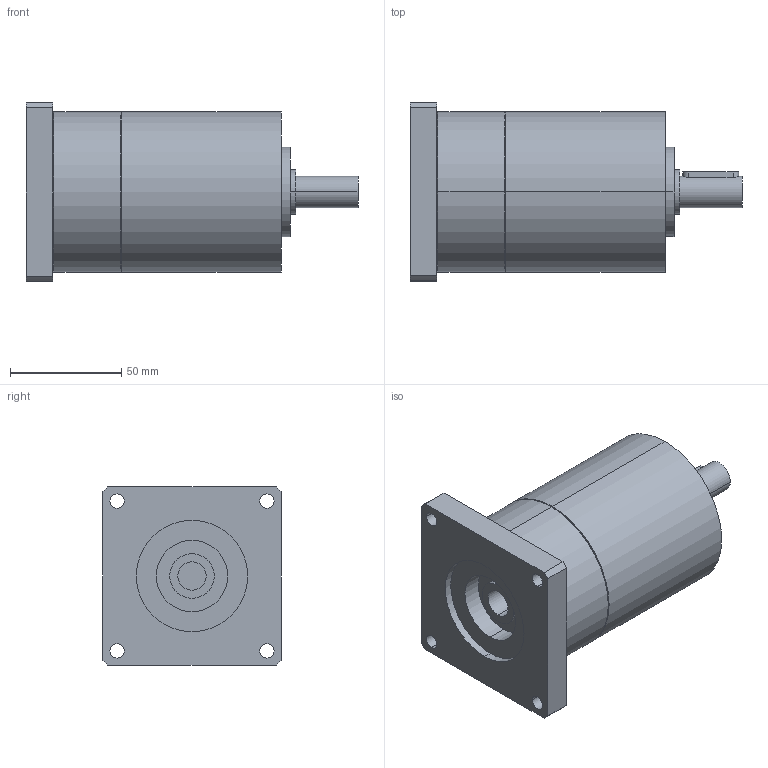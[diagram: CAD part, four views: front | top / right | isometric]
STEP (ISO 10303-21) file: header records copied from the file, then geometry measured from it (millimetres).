
FILE_DESCRIPTION(('CoCreate Modeling STEP Export'),'2;1');
FILE_NAME('GPT75_ig-9-12-16-20-25-28-35-40-50-70-100_14_B14T_12.7_P27.stp','2014-08-27T13:15:48',(''),(''),'CoCreate Modeling STEP processor for AP214 (Solid Model)','CoCreate Modeling 16.00C 25-Feb-2009 (C) Parametric Technology GmbH','');
FILE_SCHEMA(('AUTOMOTIVE_DESIGN { 1 0 10303 214 1 1 1 1 }'));
Length unit declared in the file: millimetre
Products named in the file (2): GPT75_ig-9-12-16-20-25-28-35-40-50-70-100_14_B14T_12.7_P27
Assembly tree (1 placements, depth 2):
  GPT75_ig-9-12-16-20-25-28-35-40-50-70-100_14_B14T_12.7_P27
    GPT75_ig-9-12-16-20-25-28-35-40-50-70-100_14_B14T_12.7_P27
Bounding box: 149 x 80 x 80 mm (x, y, z)
Volume: 485056.3 mm3; surface area: 46512.5 mm2
Topology: 1 solids, 1 shells, 69 faces, 163 edges, 110 vertices
Faces by surface type: cylinder 42, plane 23, cone 4
Entity records: 2146 total; most frequent: CARTESIAN_POINT 661, ORIENTED_EDGE 326, DIRECTION 262, EDGE_CURVE 163, VERTEX_POINT 110, AXIS2_PLACEMENT_3D 99, EDGE_LOOP 91, FACE_OUTER_BOUND 69
